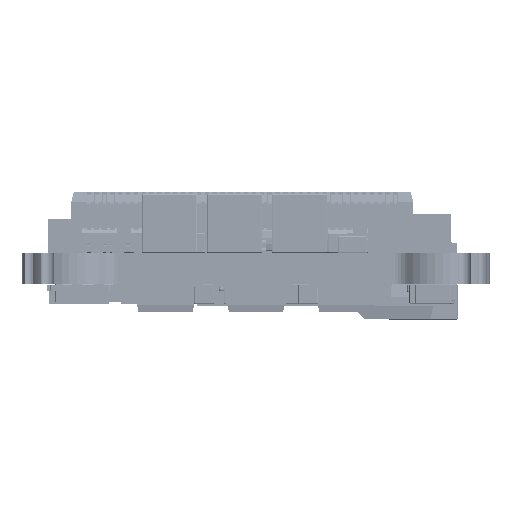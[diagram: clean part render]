
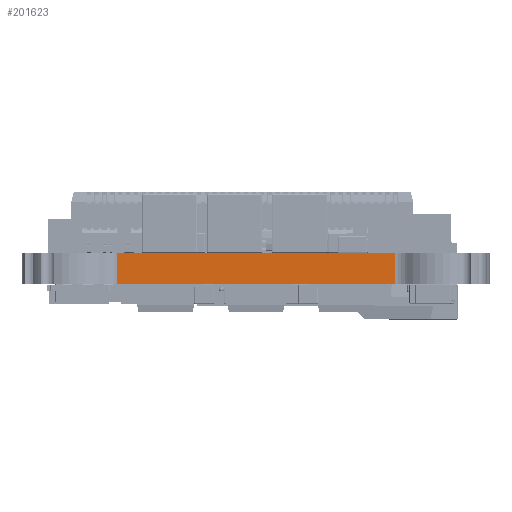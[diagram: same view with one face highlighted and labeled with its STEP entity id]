
A CAD part, left-side view. The second image highlights one B-rep face of the part: STEP entity #201623.
In plain terms, the highlighted planar face has unit normal (-1, 0, 0).
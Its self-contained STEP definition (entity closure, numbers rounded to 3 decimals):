
#283=DIRECTION('',(0.,1.,0.));
#284=VECTOR('',#283,14.12);
#285=CARTESIAN_POINT('',(-1.6,2.34,0.));
#286=LINE('',#285,#284);
#9087=DIRECTION('',(0.,0.,1.));
#9088=VECTOR('',#9087,1.6);
#9089=CARTESIAN_POINT('',(-1.6,16.46,-1.6));
#9090=LINE('',#9089,#9088);
#9095=DIRECTION('',(0.,-1.,0.));
#9096=VECTOR('',#9095,14.12);
#9097=CARTESIAN_POINT('',(-1.6,16.46,-1.6));
#9098=LINE('',#9097,#9096);
#9099=DIRECTION('',(0.,0.,-1.));
#9100=VECTOR('',#9099,1.6);
#9101=CARTESIAN_POINT('',(-1.6,2.34,0.));
#9102=LINE('',#9101,#9100);
#151812=CARTESIAN_POINT('',(-1.6,16.46,-1.6));
#151813=CARTESIAN_POINT('',(-1.6,16.46,0.));
#151814=VERTEX_POINT('',#151812);
#151815=VERTEX_POINT('',#151813);
#151816=CARTESIAN_POINT('',(-1.6,2.34,0.));
#151817=CARTESIAN_POINT('',(-1.6,2.34,-1.6));
#151818=VERTEX_POINT('',#151816);
#151819=VERTEX_POINT('',#151817);
#201610=CARTESIAN_POINT('',(-1.6,2.34,-1.6));
#201611=DIRECTION('',(-1.,0.,0.));
#201612=DIRECTION('',(0.,1.,0.));
#201613=AXIS2_PLACEMENT_3D('',#201610,#201611,#201612);
#201614=PLANE('',#201613);
#201616=ORIENTED_EDGE('',*,*,#201615,.T.);
#201618=ORIENTED_EDGE('',*,*,#201617,.F.);
#201619=ORIENTED_EDGE('',*,*,#201594,.T.);
#201620=ORIENTED_EDGE('',*,*,#194939,.F.);
#201621=EDGE_LOOP('',(#201616,#201618,#201619,#201620));
#201622=FACE_OUTER_BOUND('',#201621,.F.);
#201623=ADVANCED_FACE('',(#201622),#201614,.T.);
#194939=EDGE_CURVE('',#151818,#151815,#286,.T.);
#201594=EDGE_CURVE('',#151814,#151815,#9090,.T.);
#201615=EDGE_CURVE('',#151818,#151819,#9102,.T.);
#201617=EDGE_CURVE('',#151814,#151819,#9098,.T.);
